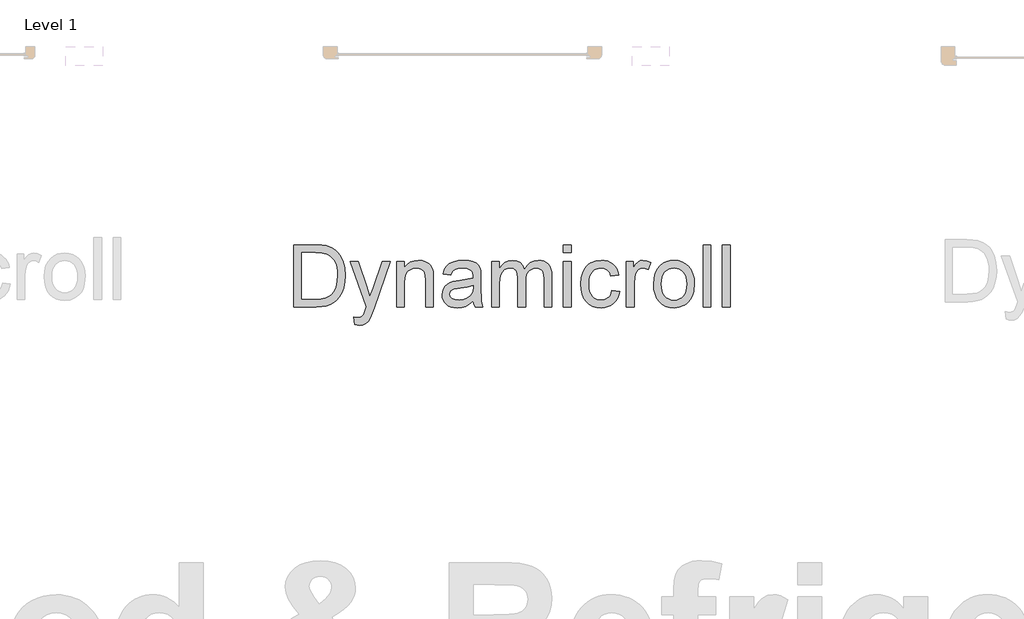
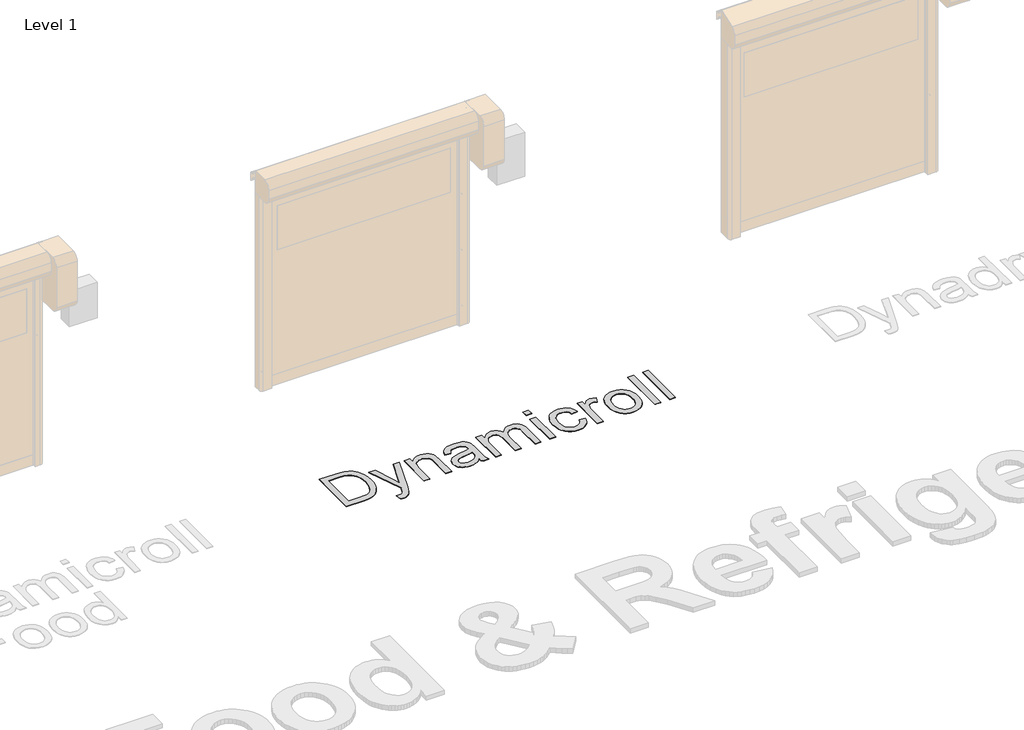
# One storey, part 2 of 20: 1 proxy.
"""IFC4 building model written with IfcOpenShell, lengths in millimetres."""

from ifc_helpers import new_model, si_unit, origin, origin_with_axes, place, context, project, spatial, polyline, outline, extrude, element, save

model = new_model("IFC4")

# Units and contexts
model_context = context("Model", 3, world=origin())
ifc_project = project(units=[si_unit("LENGTHUNIT", "METRE", prefix="MILLI")], contexts=[model_context])

# Site, building, storey
site = spatial("IfcSite", under=ifc_project)
building = spatial("IfcBuilding", under=site)
storey = spatial("IfcBuildingStorey", under=building, Name="Level 1", Elevation=0.0)

# Proxy
placement = place(None, origin())
element("IfcBuildingElementProxy", 1, Name="500mm", ObjectType="500mm", at=placement, inside=storey, context=model_context, shape_type="SweptSolid", body=[
    extrude(outline(polyline([(5132.2974666, 7547.2366873), (5132.2974666, 8049.5182381), (5305.5698863, 8049.5182381), (5357.3492772, 8047.7094849), (5395.2104658, 8042.2832255), (5435.2482896, 8028.3343665), (5469.0321195, 8006.3534173), (5487.6484813, 7988.3885132), (5503.7663112, 7968.0936898), (5517.3856093, 7945.4689471), (5528.5063754, 7920.5142851), (5543.3136257, 7864.5349081), (5548.2493758, 7801.075264), (5544.907781, 7747.1652233), (5534.8829967, 7699.7237743), (5519.6158939, 7659.3333969), (5500.5473438, 7626.5765709), (5478.5970514, 7600.7175324), (5454.6847217, 7581.0205172), (5427.2315278, 7566.4125363), (5394.6586428, 7555.8206005), (5356.9047531, 7549.3826656), (5313.9085449, 7547.2366873), (5132.2974666, 7547.2366873)]), holes=[polyline([(5195.0826604, 7610.0218811), (5306.183023, 7610.0218811), (5352.1376156, 7612.2904868), (5386.9944346, 7619.0963037), (5413.2979973, 7630.0407931), (5433.5928207, 7644.725416), (5455.4051573, 7671.9026984), (5471.7912345, 7707.0814142), (5482.0459451, 7750.4148476), (5485.464182, 7802.0562826), (5483.7895525, 7838.507257), (5478.765664, 7870.4823337), (5470.3925165, 7897.9815129), (5458.67011, 7921.0047944), (5444.5488063, 7940.0733445), (5428.9789673, 7955.7083293), (5411.9605929, 7967.9097488), (5393.4936832, 7976.677603), (5357.379934, 7984.2191839), (5304.4662403, 7986.7330442), (5195.0826604, 7986.7330442), (5195.0826604, 7610.0218811)])]), origin_with_axes(), (0.0, 0.0, 1.0), 5.0),
    extrude(outline(polyline([(5626.7308681, 7405.9700012), (5618.8827189, 7466.4252757), (5650.7658251, 7460.9070458), (5667.5351128, 7462.6391568), (5680.5642668, 7467.83549), (5690.7116785, 7476.1281633), (5698.8357392, 7487.1492948), (5716.0035656, 7533.3797988), (5720.9086589, 7548.585588), (5587.490122, 7916.0997011), (5653.7088811, 7916.0997011), (5724.4648515, 7711.3120572), (5749.1129452, 7629.3969996), (5773.7610389, 7701.7471253), (5846.4790466, 7916.0997011), (5912.2072964, 7916.0997011), (5783.8164801, 7538.4075194), (5750.4618458, 7456.4924618), (5733.3859899, 7430.3421833), (5714.0415283, 7412.2239951), (5691.5700698, 7401.6473877), (5665.113223, 7398.1218519), (5646.933721, 7400.0838892), (5626.7308681, 7405.9700012)])), origin_with_axes(), (0.0, 0.0, 1.0), 5.0),
    extrude(outline(polyline([(5964.201285, 7547.2366873), (5964.201285, 7916.0997011), (6026.9864789, 7916.0997011), (6026.9864789, 7864.5962218), (6048.7988155, 7890.5625593), (6074.9950792, 7909.1099432), (6105.5752701, 7920.2383736), (6140.5393881, 7923.9478504), (6171.4874609, 7920.9588092), (6199.8297029, 7911.9916855), (6223.4661211, 7898.1654539), (6240.2967224, 7880.5990886), (6251.7163927, 7859.338575), (6259.1200178, 7834.4298982), (6262.4309558, 7773.729369), (6262.4309558, 7547.2366873), (6199.6457619, 7547.2366873), (6199.6457619, 7765.2680831), (6197.8370088, 7797.7336692), (6192.4107494, 7820.8182644), (6182.4012934, 7837.3576258), (6166.8429507, 7850.1875103), (6146.9006809, 7858.41887), (6123.7394436, 7861.1626565), (6104.6747256, 7859.6221507), (6086.9665725, 7855.0006331), (6070.6149842, 7847.2981038), (6055.6199608, 7836.5145628), (6043.0928125, 7821.4237368), (6034.1448494, 7800.7993525), (6028.7760715, 7774.6414098), (6026.9864789, 7742.9499087), (6026.9864789, 7547.2366873), (5964.201285, 7547.2366873)])), origin_with_axes(), (0.0, 0.0, 1.0), 5.0),
    extrude(outline(polyline([(6584.2050742, 7594.3255827), (6554.2073632, 7568.6044999), (6523.320604, 7551.7738986), (6490.8396895, 7542.4848782), (6456.0595126, 7539.3885381), (6428.1043131, 7541.2509407), (6403.590343, 7546.8381485), (6382.5176025, 7556.1501615), (6364.8860914, 7569.1869797), (6350.9640572, 7585.1208686), (6341.019747, 7603.1240937), (6335.0531609, 7623.1966551), (6333.0642989, 7645.3385527), (6336.0686685, 7671.3662038), (6345.0817774, 7695.002622), (6358.9846511, 7715.2361318), (6376.6583153, 7731.0550576), (6397.4283196, 7743.0112224), (6420.6202137, 7751.6564493), (6474.9441217, 7761.0987538), (6539.1395298, 7771.0315677), (6583.8371922, 7782.6811642), (6584.2050742, 7796.66068), (6579.8824608, 7824.6810253), (6566.9146205, 7843.0138114), (6553.8394812, 7850.9539312), (6537.9132565, 7856.6254452), (6497.5075507, 7861.1626565), (6460.1062145, 7858.1429585), (6433.9865929, 7849.0838643), (6416.1749729, 7832.3299052), (6403.6976419, 7806.2256119), (6340.9124481, 7814.0737611), (6351.8109522, 7848.409414), (6368.0744021, 7875.387427), (6391.2203109, 7896.0194756), (6422.766192, 7911.3172352), (6461.3478163, 7920.7901966), (6505.6009546, 7923.9478504), (6548.0453398, 7921.1580786), (6581.6912139, 7912.7887632), (6607.0597432, 7900.2041333), (6624.6720937, 7884.7684179), (6636.3523471, 7865.6845394), (6643.9245848, 7842.1554201), (6646.9902681, 7787.2183755), (6646.9902681, 7709.1047652), (6650.1785787, 7600.0277536), (6654.899731, 7573.065069), (6662.6865665, 7547.2366873), (6599.9013727, 7547.2366873), (6589.8459315, 7569.0643524), (6584.2050742, 7594.3255827)]), holes=[polyline([(6584.2050742, 7719.8959704), (6542.0212721, 7709.4419903), (6482.9148982, 7700.6434793), (6428.8975586, 7690.4654108), (6414.8414007, 7683.5063097), (6404.4334059, 7673.910721), (6397.995471, 7662.4144086), (6395.8494927, 7649.7531366), (6400.5246597, 7631.0831254), (6414.5501608, 7615.7853657), (6437.6194276, 7605.5766404), (6469.4258917, 7602.1737319), (6503.148408, 7605.929194), (6532.9468496, 7617.1955801), (6557.1044339, 7633.7962551), (6573.9043784, 7653.5545839), (6581.3539888, 7673.910721), (6583.8371922, 7702.1150073), (6584.2050742, 7719.8959704)])]), origin_with_axes(), (0.0, 0.0, 1.0), 5.0),
    extrude(outline(polyline([(6733.3199096, 7547.2366873), (6733.3199096, 7916.0997011), (6796.1051035, 7916.0997011), (6796.1051035, 7855.3991719), (6814.9897125, 7883.2815615), (6839.2699242, 7905.1245549), (6868.118004, 7919.2420265), (6900.7062174, 7923.9478504), (6935.6243501, 7919.150056), (6963.6140386, 7904.756673), (6984.5219987, 7881.718063), (6998.1949461, 7850.984588), (7021.0802719, 7882.9060153), (7047.1845652, 7905.7070348), (7076.5078259, 7919.3876465), (7109.050054, 7923.9478504), (7134.1848249, 7922.0509588), (7156.2462483, 7916.3602842), (7175.2343242, 7906.8758265), (7191.1490526, 7893.5975858), (7203.7298504, 7876.3722778), (7212.7161346, 7855.0466184), (7218.1079051, 7829.6206075), (7219.9051619, 7800.0942453), (7219.9051619, 7547.2366873), (7157.1199681, 7547.2366873), (7157.1199681, 7773.1162323), (7155.6637685, 7804.4321872), (7151.2951698, 7825.5394167), (7143.1097954, 7839.9941134), (7130.2032687, 7851.35247), (7113.6025937, 7858.7101099), (7094.3347742, 7861.1626565), (7076.5423148, 7859.5914938), (7060.3210181, 7854.8780058), (7045.670884, 7847.0221923), (7032.5919127, 7836.0240535), (7021.8351964, 7821.5616926), (7014.1518277, 7803.3132128), (7009.5418064, 7781.2786141), (7008.0051327, 7755.4578966), (7008.0051327, 7547.2366873), (6945.2199388, 7547.2366873), (6945.2199388, 7780.1059903), (6941.5871041, 7815.6066028), (6930.6886, 7840.9291468), (6922.2618031, 7849.7813073), (6911.512751, 7856.1042791), (6883.0478817, 7861.1626565), (6858.8596405, 7857.7904049), (6836.5721229, 7847.67365), (6818.1780232, 7831.0576466), (6805.6700353, 7808.1876492), (6798.4963364, 7776.4578271), (6796.1051035, 7733.2623495), (6796.1051035, 7547.2366873), (6733.3199096, 7547.2366873)])), origin_with_axes(), (0.0, 0.0, 1.0), 5.0),
    extrude(outline(polyline([(7314.0829527, 7986.7330442), (7314.0829527, 8049.5182381), (7376.8681465, 8049.5182381), (7376.8681465, 7986.7330442), (7314.0829527, 7986.7330442)])), origin_with_axes(), (0.0, 0.0, 1.0), 5.0),
    extrude(outline(polyline([(7314.0829527, 7547.2366873), (7314.0829527, 7916.0997011), (7376.8681465, 7916.0997011), (7376.8681465, 7547.2366873), (7314.0829527, 7547.2366873)])), origin_with_axes(), (0.0, 0.0, 1.0), 5.0),
    extrude(outline(polyline([(7706.4904142, 7680.6552242), (7769.275608, 7672.807075), (7762.4467985, 7643.1810781), (7751.7705564, 7616.9656538), (7737.2468818, 7594.1608022), (7718.8757747, 7574.7665233), (7697.4313201, 7559.2886548), (7673.687603, 7548.2330344), (7647.6446234, 7541.5996621), (7619.3023813, 7539.3885381), (7584.0891766, 7542.4733819), (7552.5164708, 7551.7279133), (7524.5842639, 7567.1521324), (7500.2925559, 7588.7460391), (7480.6300297, 7616.1034304), (7466.5853681, 7648.8181032), (7458.1585711, 7686.8900576), (7455.3496388, 7730.3192936), (7460.1474332, 7786.1913716), (7474.5408162, 7834.6138392), (7485.3933351, 7855.5639524), (7498.7597142, 7873.7166296), (7514.6399537, 7889.0718708), (7533.0340535, 7901.629676), (7574.0375675, 7918.3683068), (7618.44399, 7923.9478504), (7646.2995548, 7922.0317983), (7671.4956394, 7916.2836421), (7694.0322437, 7906.7033818), (7713.9093678, 7893.2910174), (7730.7897864, 7876.3531172), (7744.3362744, 7856.1962496), (7754.5488319, 7832.8204145), (7761.4274588, 7806.2256119), (7698.642265, 7798.3774627), (7687.2532515, 7825.7693429), (7669.5182737, 7845.4050444), (7646.4183501, 7857.2232535), (7618.9344993, 7861.1626565), (7597.6011757, 7859.2236118), (7578.360181, 7853.4064778), (7561.211515, 7843.7112544), (7546.155178, 7830.1379416), (7533.8962769, 7812.3723069), (7525.139919, 7790.1001178), (7519.8861042, 7763.3213742), (7518.1348327, 7732.0360762), (7519.8477832, 7700.2794294), (7524.9866348, 7673.1902854), (7533.5513875, 7650.7686442), (7545.5420413, 7633.0145058), (7560.2994743, 7619.5216673), (7577.1645645, 7609.8839254), (7596.1373119, 7604.1012803), (7617.2177167, 7602.1737319), (7649.729288, 7606.9868547), (7676.3854043, 7621.426223), (7687.1651131, 7632.3477197), (7695.7758511, 7645.8597188), (7706.4904142, 7680.6552242)])), origin_with_axes(), (0.0, 0.0, 1.0), 5.0),
    extrude(outline(polyline([(7824.2126526, 7547.2366873), (7824.2126526, 7916.0997011), (7879.1496973, 7916.0997011), (7879.1496973, 7861.5305385), (7899.4445207, 7893.1683901), (7918.1451887, 7911.8077445), (7936.9071705, 7920.9128239), (7957.3859349, 7923.9478504), (7988.6559045, 7919.1040708), (8020.4163834, 7904.572732), (7999.4471097, 7848.2867867), (7977.37419, 7857.9436891), (7955.3012703, 7861.1626565), (7936.5546169, 7858.0663164), (7919.8006577, 7848.777296), (7906.265666, 7834.0007025), (7897.175915, 7814.4416431), (7889.5423636, 7779.3702263), (7886.9978465, 7741.1104988), (7886.9978465, 7547.2366873), (7824.2126526, 7547.2366873)])), origin_with_axes(), (0.0, 0.0, 1.0), 5.0),
    extrude(outline(polyline([(8043.9608311, 7731.6681942), (8047.3560753, 7779.4392041), (8057.5418081, 7820.6036666), (8074.5180293, 7855.1615815), (8098.2847391, 7883.1129489), (8122.2123972, 7900.9782183), (8148.6232587, 7913.739125), (8177.5173238, 7921.395669), (8208.8945923, 7923.9478504), (8243.5329814, 7920.8400139), (8274.8527683, 7911.5165046), (8302.8539531, 7895.9773224), (8327.5365357, 7874.2224674), (8347.6819071, 7846.9877034), (8362.071458, 7815.0087945), (8370.7051886, 7778.2857408), (8373.5830988, 7736.8185422), (8368.4940645, 7673.3895548), (8362.1327717, 7647.3542395), (8353.2269617, 7625.105043), (8341.8877656, 7605.8870408), (8328.2263145, 7588.9453085), (8312.2426082, 7574.2798461), (8293.9366468, 7561.8906534), (8253.2090443, 7545.0140669), (8208.8945923, 7539.3885381), (8173.7503654, 7542.4848782), (8142.1393386, 7551.7738986), (8114.0615117, 7567.2555992), (8089.5168848, 7588.9299801), (8069.5861113, 7616.4291592), (8055.3498445, 7649.3852546), (8046.8080845, 7687.7982663), (8043.9608311, 7731.6681942)]), holes=[polyline([(8106.7460249, 7731.7908216), (8108.5624423, 7701.3370901), (8114.0116943, 7674.9683817), (8123.0937811, 7652.6846963), (8135.8087026, 7634.4860338), (8151.2750748, 7620.3494017), (8168.6115138, 7610.2518074), (8187.8180196, 7604.1932508), (8208.8945923, 7602.1737319), (8229.863866, 7604.2047471), (8248.9937297, 7610.2977926), (8266.2841835, 7620.4528686), (8281.7352273, 7634.6699748), (8294.4501488, 7653.0487462), (8303.5322355, 7675.6888173), (8308.9814876, 7702.5901882), (8310.7979049, 7733.7528589), (8308.9699913, 7763.2409), (8303.4862503, 7788.9198297), (8294.346682, 7810.7896479), (8281.5512863, 7828.8503546), (8266.042761, 7842.9869867), (8248.7638035, 7853.084581), (8229.7144139, 7859.1431377), (8208.8945923, 7861.1626565), (8187.8180196, 7859.1508019), (8168.6115138, 7853.1152379), (8151.2750748, 7843.0559646), (8135.8087026, 7828.9729819), (8123.0937811, 7810.827969), (8114.0116943, 7788.5826046), (8108.5624423, 7762.2368888), (8106.7460249, 7731.7908216)])]), origin_with_axes(), (0.0, 0.0, 1.0), 5.0),
    extrude(outline(polyline([(8444.2164419, 7547.2366873), (8444.2164419, 8049.5182381), (8507.0016357, 8049.5182381), (8507.0016357, 7547.2366873), (8444.2164419, 7547.2366873)])), origin_with_axes(), (0.0, 0.0, 1.0), 5.0),
    extrude(outline(polyline([(8601.1794265, 7547.2366873), (8601.1794265, 8049.5182381), (8663.9646203, 8049.5182381), (8663.9646203, 7547.2366873), (8601.1794265, 7547.2366873)])), origin_with_axes(), (0.0, 0.0, 1.0), 5.0),
])

save(model, "model.ifc")
